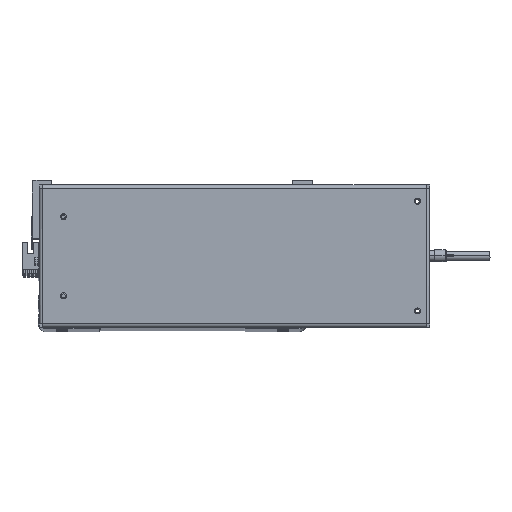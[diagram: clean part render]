
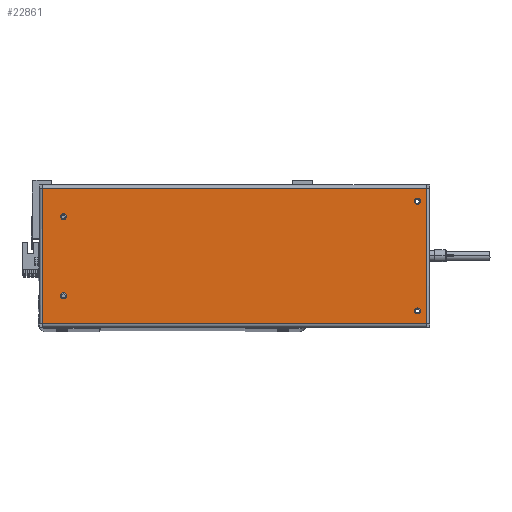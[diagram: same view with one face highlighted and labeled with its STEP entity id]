
A CAD part, top view. The second image highlights one B-rep face of the part: STEP entity #22861.
In plain terms, the highlighted planar face has unit normal (0, 0, 1).
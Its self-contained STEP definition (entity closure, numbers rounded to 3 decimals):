
#440 = DIRECTION ( 'NONE',  ( 0., 0., 1. ) ) ;
#590 = VERTEX_POINT ( 'NONE', #22089 ) ;
#1129 = EDGE_CURVE ( 'NONE', #34789, #22890, #21453, .T. ) ;
#1472 = CARTESIAN_POINT ( 'NONE',  ( -143., -32.5, 0. ) ) ;
#2377 = VERTEX_POINT ( 'NONE', #16711 ) ;
#2703 = DIRECTION ( 'NONE',  ( 1., 0., 0. ) ) ;
#2974 = ORIENTED_EDGE ( 'NONE', *, *, #32602, .T. ) ;
#3048 = DIRECTION ( 'NONE',  ( 0., -1., 0. ) ) ;
#3247 = CIRCLE ( 'NONE', #26623, 2.5 ) ;
#3387 = DIRECTION ( 'NONE',  ( 1., 0., 0. ) ) ;
#4014 = CARTESIAN_POINT ( 'NONE',  ( 150.5, -45., 0. ) ) ;
#4150 = DIRECTION ( 'NONE',  ( 1., 0., 0. ) ) ;
#4549 = FACE_OUTER_BOUND ( 'NONE', #39318, .T. ) ;
#5036 = VECTOR ( 'NONE', #20140, 1000. ) ;
#5487 = AXIS2_PLACEMENT_3D ( 'NONE', #16015, #440, #25371 ) ;
#5653 = ORIENTED_EDGE ( 'NONE', *, *, #16055, .F. ) ;
#5958 = DIRECTION ( 'NONE',  ( 0., 0., 1. ) ) ;
#5973 = EDGE_LOOP ( 'NONE', ( #28221, #11797 ) ) ;
#6053 = FACE_BOUND ( 'NONE', #20024, .T. ) ;
#6163 = AXIS2_PLACEMENT_3D ( 'NONE', #18896, #5958, #34841 ) ;
#6289 = ORIENTED_EDGE ( 'NONE', *, *, #7075, .T. ) ;
#7032 = FACE_BOUND ( 'NONE', #24496, .T. ) ;
#7075 = EDGE_CURVE ( 'NONE', #40390, #11733, #27997, .T. ) ;
#7088 = VERTEX_POINT ( 'NONE', #1472 ) ;
#7373 = CARTESIAN_POINT ( 'NONE',  ( -140.5, -32.5, 0. ) ) ;
#7481 = DIRECTION ( 'NONE',  ( 0., 0., 1. ) ) ;
#8180 = CIRCLE ( 'NONE', #26194, 2.5 ) ;
#8352 = VECTOR ( 'NONE', #39724, 1000. ) ;
#10117 = VERTEX_POINT ( 'NONE', #13180 ) ;
#10517 = DIRECTION ( 'NONE',  ( 1., 0., 0. ) ) ;
#10758 = DIRECTION ( 'NONE',  ( 0., 1., 0. ) ) ;
#10866 = DIRECTION ( 'NONE',  ( 0., 0., -1. ) ) ;
#10916 = CARTESIAN_POINT ( 'NONE',  ( 153., 45., 0. ) ) ;
#11733 = VERTEX_POINT ( 'NONE', #21263 ) ;
#11797 = ORIENTED_EDGE ( 'NONE', *, *, #19949, .F. ) ;
#12077 = DIRECTION ( 'NONE',  ( 1., 0., 0. ) ) ;
#13036 = FACE_BOUND ( 'NONE', #36027, .T. ) ;
#13180 = CARTESIAN_POINT ( 'NONE',  ( -138., 32.5, 0. ) ) ;
#13696 = CARTESIAN_POINT ( 'NONE',  ( -157.7, -55.6, 0. ) ) ;
#14670 = ORIENTED_EDGE ( 'NONE', *, *, #22601, .F. ) ;
#14844 = LINE ( 'NONE', #36234, #8352 ) ;
#15532 = DIRECTION ( 'NONE',  ( 0., 0., 1. ) ) ;
#16015 = CARTESIAN_POINT ( 'NONE',  ( 150.5, 45., 0. ) ) ;
#16029 = AXIS2_PLACEMENT_3D ( 'NONE', #40856, #22064, #2703 ) ;
#16055 = EDGE_CURVE ( 'NONE', #10117, #590, #3247, .T. ) ;
#16321 = VERTEX_POINT ( 'NONE', #32888 ) ;
#16711 = CARTESIAN_POINT ( 'NONE',  ( -157.6, 55.6, 0. ) ) ;
#16715 = DIRECTION ( 'NONE',  ( 0., 0., 1. ) ) ;
#17693 = EDGE_CURVE ( 'NONE', #2377, #40390, #28540, .T. ) ;
#18896 = CARTESIAN_POINT ( 'NONE',  ( 150.5, -45., 0. ) ) ;
#18902 = CIRCLE ( 'NONE', #5487, 2.5 ) ;
#19043 = CIRCLE ( 'NONE', #20932, 2.5 ) ;
#19287 = CARTESIAN_POINT ( 'NONE',  ( -140.5, 32.5, 0. ) ) ;
#19432 = DIRECTION ( 'NONE',  ( 0., 0., 1. ) ) ;
#19742 = CARTESIAN_POINT ( 'NONE',  ( -140.5, 32.5, 0. ) ) ;
#19949 = EDGE_CURVE ( 'NONE', #22890, #34789, #21802, .T. ) ;
#20024 = EDGE_LOOP ( 'NONE', ( #5653, #14670 ) ) ;
#20140 = DIRECTION ( 'NONE',  ( 1., 0., 0. ) ) ;
#20643 = DIRECTION ( 'NONE',  ( -1., 0., 0. ) ) ;
#20732 = EDGE_CURVE ( 'NONE', #7088, #41318, #30222, .T. ) ;
#20905 = DIRECTION ( 'NONE',  ( 1., 0., 0. ) ) ;
#20932 = AXIS2_PLACEMENT_3D ( 'NONE', #19742, #26009, #10517 ) ;
#21263 = CARTESIAN_POINT ( 'NONE',  ( 157.6, -55.6, 0. ) ) ;
#21453 = CIRCLE ( 'NONE', #26682, 2.5 ) ;
#21503 = ORIENTED_EDGE ( 'NONE', *, *, #33019, .F. ) ;
#21755 = CIRCLE ( 'NONE', #22950, 2.5 ) ;
#21802 = CIRCLE ( 'NONE', #6163, 2.5 ) ;
#22064 = DIRECTION ( 'NONE',  ( 0., 0., 1. ) ) ;
#22089 = CARTESIAN_POINT ( 'NONE',  ( -143., 32.5, 0. ) ) ;
#22197 = CARTESIAN_POINT ( 'NONE',  ( 148., 45., 0. ) ) ;
#22601 = EDGE_CURVE ( 'NONE', #590, #10117, #19043, .T. ) ;
#22861 = ADVANCED_FACE ( 'NONE', ( #7032, #6053, #31518, #13036, #4549 ), #29997, .F. ) ;
#22890 = VERTEX_POINT ( 'NONE', #36465 ) ;
#22950 = AXIS2_PLACEMENT_3D ( 'NONE', #34695, #15532, #12077 ) ;
#24408 = LINE ( 'NONE', #39705, #32915 ) ;
#24496 = EDGE_LOOP ( 'NONE', ( #29507, #26337 ) ) ;
#25075 = CARTESIAN_POINT ( 'NONE',  ( -157.6, 55.6, 0. ) ) ;
#25371 = DIRECTION ( 'NONE',  ( 1., 0., 0. ) ) ;
#26006 = VERTEX_POINT ( 'NONE', #10916 ) ;
#26009 = DIRECTION ( 'NONE',  ( 0., 0., 1. ) ) ;
#26086 = EDGE_CURVE ( 'NONE', #16321, #2377, #14844, .T. ) ;
#26194 = AXIS2_PLACEMENT_3D ( 'NONE', #7373, #16715, #20905 ) ;
#26337 = ORIENTED_EDGE ( 'NONE', *, *, #20732, .F. ) ;
#26537 = VECTOR ( 'NONE', #3048, 1000. ) ;
#26623 = AXIS2_PLACEMENT_3D ( 'NONE', #19287, #19432, #3387 ) ;
#26682 = AXIS2_PLACEMENT_3D ( 'NONE', #4014, #7481, #4150 ) ;
#26921 = CARTESIAN_POINT ( 'NONE',  ( 157.7, 58.5, 0. ) ) ;
#27997 = LINE ( 'NONE', #13696, #5036 ) ;
#28221 = ORIENTED_EDGE ( 'NONE', *, *, #1129, .F. ) ;
#28346 = ORIENTED_EDGE ( 'NONE', *, *, #17693, .T. ) ;
#28398 = EDGE_CURVE ( 'NONE', #26006, #36344, #21755, .T. ) ;
#28540 = LINE ( 'NONE', #25075, #26537 ) ;
#29149 = EDGE_CURVE ( 'NONE', #41318, #7088, #8180, .T. ) ;
#29507 = ORIENTED_EDGE ( 'NONE', *, *, #29149, .F. ) ;
#29637 = ORIENTED_EDGE ( 'NONE', *, *, #26086, .T. ) ;
#29997 = PLANE ( 'NONE',  #39694 ) ;
#30222 = CIRCLE ( 'NONE', #16029, 2.5 ) ;
#31518 = FACE_BOUND ( 'NONE', #5973, .T. ) ;
#32602 = EDGE_CURVE ( 'NONE', #11733, #16321, #24408, .T. ) ;
#32888 = CARTESIAN_POINT ( 'NONE',  ( 157.6, 55.6, 0. ) ) ;
#32915 = VECTOR ( 'NONE', #10758, 1000. ) ;
#33019 = EDGE_CURVE ( 'NONE', #36344, #26006, #18902, .T. ) ;
#33315 = CARTESIAN_POINT ( 'NONE',  ( 153., -45., 0. ) ) ;
#34695 = CARTESIAN_POINT ( 'NONE',  ( 150.5, 45., 0. ) ) ;
#34789 = VERTEX_POINT ( 'NONE', #33315 ) ;
#34841 = DIRECTION ( 'NONE',  ( 1., 0., 0. ) ) ;
#36027 = EDGE_LOOP ( 'NONE', ( #38631, #21503 ) ) ;
#36234 = CARTESIAN_POINT ( 'NONE',  ( 157.7, 55.6, 0. ) ) ;
#36344 = VERTEX_POINT ( 'NONE', #22197 ) ;
#36465 = CARTESIAN_POINT ( 'NONE',  ( 148., -45., 0. ) ) ;
#36504 = CARTESIAN_POINT ( 'NONE',  ( -138., -32.5, 0. ) ) ;
#36512 = CARTESIAN_POINT ( 'NONE',  ( -157.6, -55.6, 0. ) ) ;
#38631 = ORIENTED_EDGE ( 'NONE', *, *, #28398, .F. ) ;
#39318 = EDGE_LOOP ( 'NONE', ( #28346, #6289, #2974, #29637 ) ) ;
#39694 = AXIS2_PLACEMENT_3D ( 'NONE', #26921, #10866, #20643 ) ;
#39705 = CARTESIAN_POINT ( 'NONE',  ( 157.6, -55.6, 0. ) ) ;
#39724 = DIRECTION ( 'NONE',  ( -1., 0., 0. ) ) ;
#40390 = VERTEX_POINT ( 'NONE', #36512 ) ;
#40856 = CARTESIAN_POINT ( 'NONE',  ( -140.5, -32.5, 0. ) ) ;
#41318 = VERTEX_POINT ( 'NONE', #36504 ) ;
